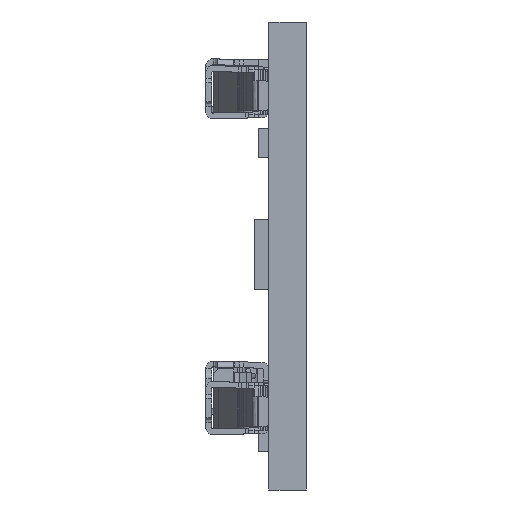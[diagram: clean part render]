
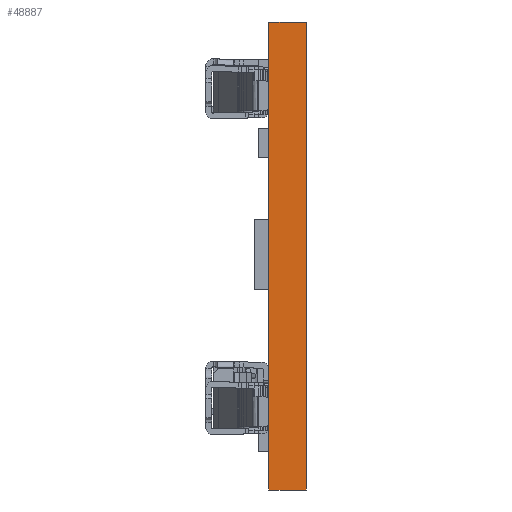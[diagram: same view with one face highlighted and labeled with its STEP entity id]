
A CAD part, left-side view. The second image highlights one B-rep face of the part: STEP entity #48887.
In plain terms, the highlighted planar face has unit normal (-1, 0, 0).
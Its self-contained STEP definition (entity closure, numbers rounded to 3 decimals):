
#188=DIRECTION('',(0.,0.,-1.));
#189=VECTOR('',#188,20.);
#190=CARTESIAN_POINT('',(-139.5,0.,10.));
#191=LINE('',#190,#189);
#3860=DIRECTION('',(0.,0.,-1.));
#3861=VECTOR('',#3860,20.);
#3862=CARTESIAN_POINT('',(-139.5,-1.6,10.));
#3863=LINE('',#3862,#3861);
#3864=DIRECTION('',(0.,1.,0.));
#3865=VECTOR('',#3864,1.6);
#3866=CARTESIAN_POINT('',(-139.5,-1.6,-10.));
#3867=LINE('',#3866,#3865);
#3876=DIRECTION('',(0.,1.,0.));
#3877=VECTOR('',#3876,1.6);
#3878=CARTESIAN_POINT('',(-139.5,-1.6,10.));
#3879=LINE('',#3878,#3877);
#33604=CARTESIAN_POINT('',(-139.5,0.,10.));
#33605=VERTEX_POINT('',#33604);
#33606=CARTESIAN_POINT('',(-139.5,0.,-10.));
#33607=VERTEX_POINT('',#33606);
#43385=CARTESIAN_POINT('',(-139.5,-1.6,-10.));
#43386=VERTEX_POINT('',#43385);
#43387=CARTESIAN_POINT('',(-139.5,-1.6,10.));
#43388=VERTEX_POINT('',#43387);
#48875=CARTESIAN_POINT('',(-139.5,0.,-10.));
#48876=DIRECTION('',(-1.,0.,0.));
#48877=DIRECTION('',(0.,0.,1.));
#48878=AXIS2_PLACEMENT_3D('',#48875,#48876,#48877);
#48879=PLANE('',#48878);
#48880=ORIENTED_EDGE('',*,*,#43724,.F.);
#48882=ORIENTED_EDGE('',*,*,#48881,.F.);
#48883=ORIENTED_EDGE('',*,*,#48629,.T.);
#48884=ORIENTED_EDGE('',*,*,#48862,.T.);
#48885=EDGE_LOOP('',(#48880,#48882,#48883,#48884));
#48886=FACE_OUTER_BOUND('',#48885,.F.);
#43724=EDGE_CURVE('',#33605,#33607,#191,.T.);
#48629=EDGE_CURVE('',#43388,#43386,#3863,.T.);
#48862=EDGE_CURVE('',#43386,#33607,#3867,.T.);
#48881=EDGE_CURVE('',#43388,#33605,#3879,.T.);
#48887=ADVANCED_FACE('',(#48886),#48879,.T.);
